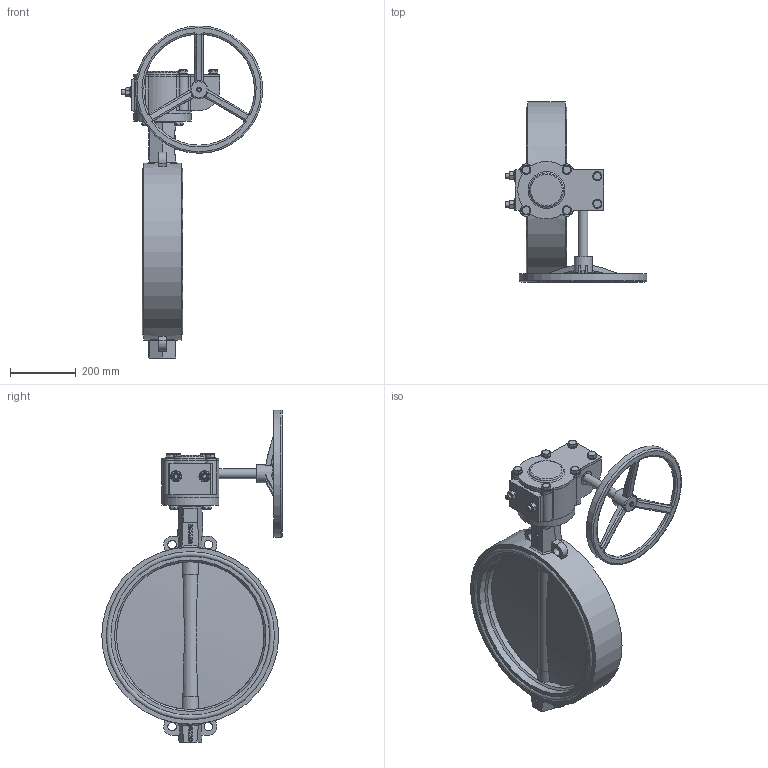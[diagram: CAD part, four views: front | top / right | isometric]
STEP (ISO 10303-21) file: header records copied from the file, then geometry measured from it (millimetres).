
FILE_DESCRIPTION(('STEP AP242'), '1');
FILE_NAME('Ïîâîðîòíûé çàòâîð ïîä ýëåêòðîïðèâîä', '', ('UNSPECIFIED'), ('UNSPECIFIED'), 'C3D Converter', 'C3D Toolkit', '');
FILE_SCHEMA(('AP242_MANAGED_MODEL_BASED_3D_ENGINEERING_MIM_LF { 1 0 10303 442 1 1 4 }'));
Length unit declared in the file: millimetre
Products named in the file (17): П
Assembly tree (36 placements, depth 3):
  (unnamed)
    (unnamed)
    П  x2
    (unnamed)
    (unnamed)
    (unnamed)
    (unnamed)
      (unnamed)
      (unnamed)
      (unnamed)
      (unnamed)
      (unnamed)  x6
      (unnamed)  x6
      (unnamed)  x2
      (unnamed)  x2
      (unnamed)
    (unnamed)  x4
    (unnamed)  x4
Bounding box: 431 x 549.5 x 1011.5 mm (x, y, z)
Volume: 19188302.2 mm3; surface area: 2273329.7 mm2
Topology: 35 solids, 35 shells, 804 faces, 1923 edges, 1239 vertices
Faces by surface type: plane 400, cylinder 147, extrusion 119, bspline 61, cone 44, torus 29, sphere 4
Full cylindrical faces by diameter (mm): 6 x2, 12.564 x1, 14.376 x2, 16 x30, 17 x10, 18 x4, 26 x4, 28 x10, 30 x3, 36 x6, 45 x2, 50.912 x5, 54.15 x4, 55 x1, 175 x2, 338 x1, 348 x1, 378 x1, 388 x1, 450 x1, 461.4 x2, 484.2 x2, 498.3 x4, 512.4 x4, 539 x1
Entity records: 33081 total; most frequent: CARTESIAN_POINT 15776, ORIENTED_EDGE 2968, DIRECTION 2417, EDGE_CURVE 1484, VERTEX_POINT 1033, EDGE_LOOP 843, AXIS2_PLACEMENT_3D 814, VECTOR 789
